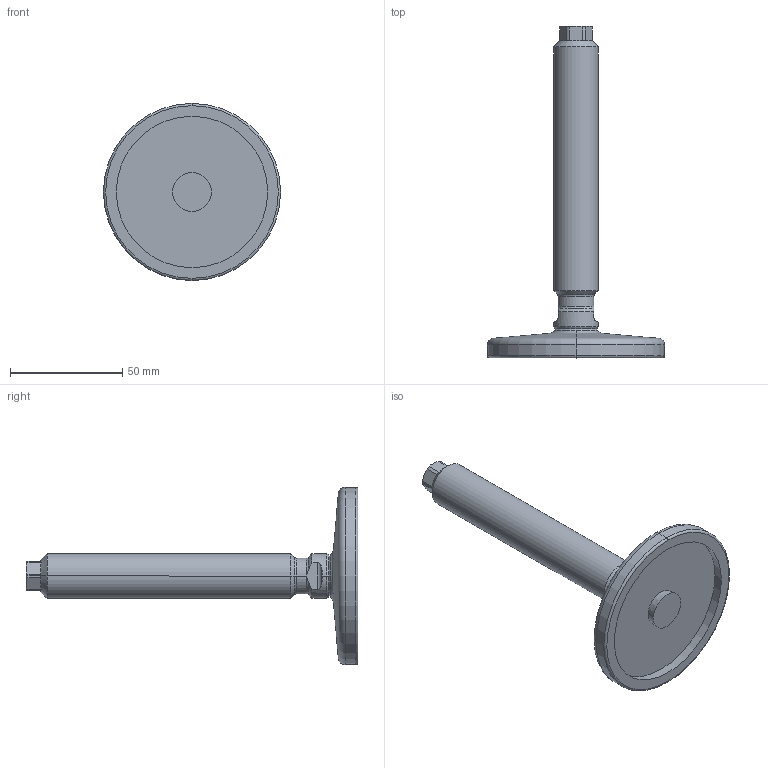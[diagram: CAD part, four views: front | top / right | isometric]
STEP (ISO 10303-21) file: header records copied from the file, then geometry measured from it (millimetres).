
FILE_DESCRIPTION (( 'STEP AP214' ), '1' );
FILE_NAME ('21-80-M20-125-D0-V.step', '2020-10-02T17:35:52', ( '' ), ( '' ), 'SwSTEP 2.0', 'SolidWorks 2019', '' );
FILE_SCHEMA (( 'AUTOMOTIVE_DESIGN' ));
Length unit declared in the file: millimetre
Products named in the file (3): WB21_Fußteller 21^WB21_V_D0-080-R12-B9 (M20); 21-80-M20-125-D0-V; WB21_Spindel_V^WB21_V_M20-125
Assembly tree (2 placements, depth 2):
  21-80-M20-125-D0-V
    WB21_Fußteller 21^WB21_V_D0-080-R12-B9 (M20)
    WB21_Spindel_V^WB21_V_M20-125
Bounding box: 79 x 148.02 x 79 mm (x, y, z)
Volume: 71905.7 mm3; surface area: 22113.1 mm2
Topology: 2 solids, 2 shells, 79 faces, 177 edges, 105 vertices
Faces by surface type: cylinder 23, cone 21, plane 21, torus 10, sphere 4
Entity records: 2434 total; most frequent: CARTESIAN_POINT 518, DIRECTION 406, ORIENTED_EDGE 354, EDGE_CURVE 177, AXIS2_PLACEMENT_3D 173, VERTEX_POINT 105, CIRCLE 89, EDGE_LOOP 82
